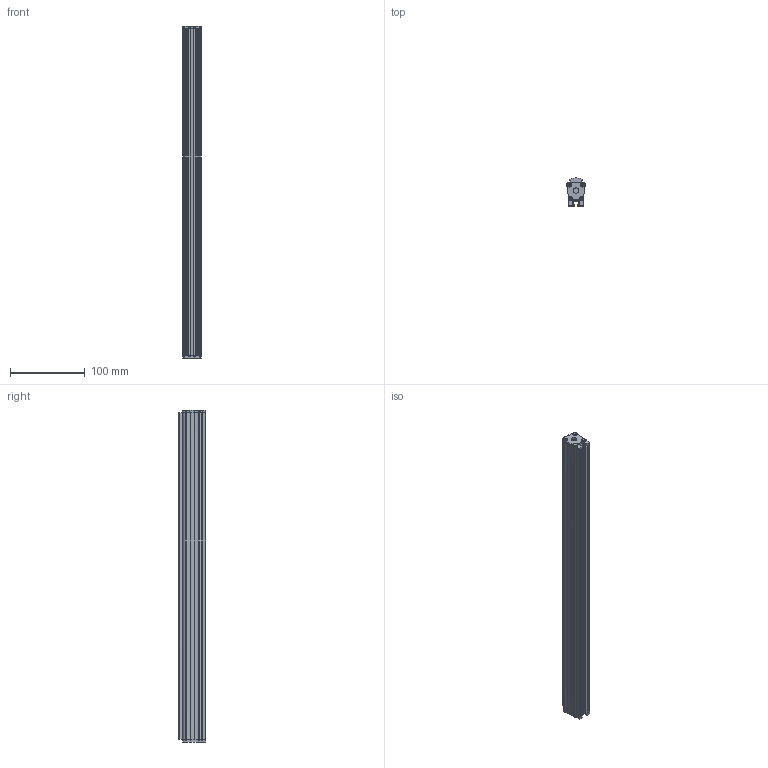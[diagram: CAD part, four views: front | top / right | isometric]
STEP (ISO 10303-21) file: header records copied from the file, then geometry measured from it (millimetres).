
FILE_DESCRIPTION(('STEP AP214'),'1');
FILE_NAME('lin+op 416.stp','2021-02-15T14:44:40',('Blanc'),('Phlox'),'Spatial InterOp 3D',' ',' ');
FILE_SCHEMA(('AUTOMOTIVE_DESIGN { 1 0 10303 214 1 1 1 1 }'));
Length unit declared in the file: inch
Products named in the file (1): Pièce_83634808
Bounding box: 24.54 x 37.28 x 444.29 mm (x, y, z)
Volume: 162782.9 mm3; surface area: 134770.6 mm2
Topology: 6 solids, 6 shells, 380 faces, 1090 edges, 718 vertices
Faces by surface type: cylinder 211, plane 103, bspline 36, cone 16, extrusion 14
Entity records: 25882 total; most frequent: CARTESIAN_POINT 7896, ORIENTED_EDGE 2180, DIRECTION 2086, STYLED_ITEM 1345, PRESENTATION_STYLE_ASSIGNMENT 1345, COLOUR_RGB 1345, EDGE_CURVE 1090, CURVE_STYLE 959
